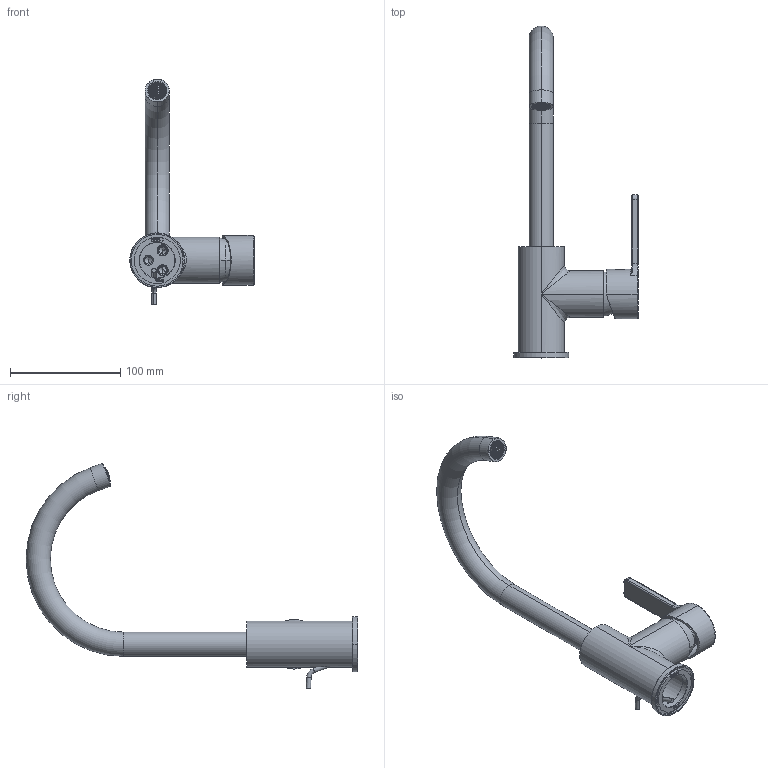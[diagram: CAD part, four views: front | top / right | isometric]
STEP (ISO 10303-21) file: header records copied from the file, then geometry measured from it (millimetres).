
FILE_DESCRIPTION((''),'2;1');
FILE_NAME('F3581W_FILE_3D','2016-09-22T',('ivanv'),(''),'CREO PARAMETRIC BY PTC INC, 2015290','CREO PARAMETRIC BY PTC INC, 2015290','');
FILE_SCHEMA(('CONFIG_CONTROL_DESIGN'));
Length unit declared in the file: millimetre
Products named in the file (1): F3581W_FILE_3D
Bounding box: 113 x 301.12 x 204.62 mm (x, y, z)
Volume: 185164.4 mm3; surface area: 105957.9 mm2
Topology: 4 solids, 5 shells, 3802 faces, 10890 edges, 7190 vertices
Faces by surface type: plane 2579, torus 455, cylinder 356, bspline 208, cone 107, extrusion 81, sphere 16
Entity records: 154130 total; most frequent: CARTESIAN_POINT 60609, ORIENTED_EDGE 21728, DIRECTION 16057, EDGE_CURVE 10864, VERTEX_POINT 7190, VECTOR 5395, AXIS2_PLACEMENT_3D 5331, LINE 5314
